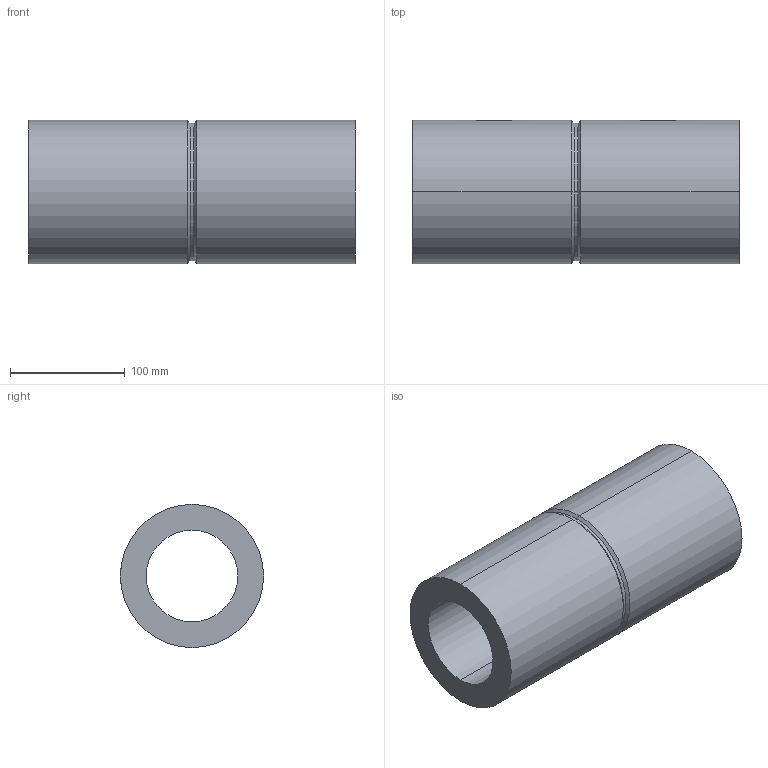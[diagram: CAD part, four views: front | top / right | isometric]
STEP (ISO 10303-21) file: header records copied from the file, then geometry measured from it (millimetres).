
FILE_DESCRIPTION (( 'STEP AP203' ), '1' );
FILE_NAME ('ZD8020-R-4EP.STEP', '2002-08-15T11:56:31', ( '.' ), ( '.' ), 'SwSTEP 2.0', 'SolidWorks 2001340', '' );
FILE_SCHEMA (( 'CONFIG_CONTROL_DESIGN' ));
Length unit declared in the file: millimetre
Products named in the file (1): ZD8020-R-4EP
Bounding box: 285 x 125 x 125 mm (x, y, z)
Volume: 2057751.6 mm3; surface area: 199303.3 mm2
Topology: 1 solids, 1 shells, 24 faces, 52 edges, 32 vertices
Faces by surface type: cylinder 12, plane 8, cone 4
Entity records: 857 total; most frequent: CARTESIAN_POINT 241, DIRECTION 118, ORIENTED_EDGE 104, EDGE_CURVE 52, AXIS2_PLACEMENT_3D 45, VERTEX_POINT 32, EDGE_LOOP 28, LINE 28
